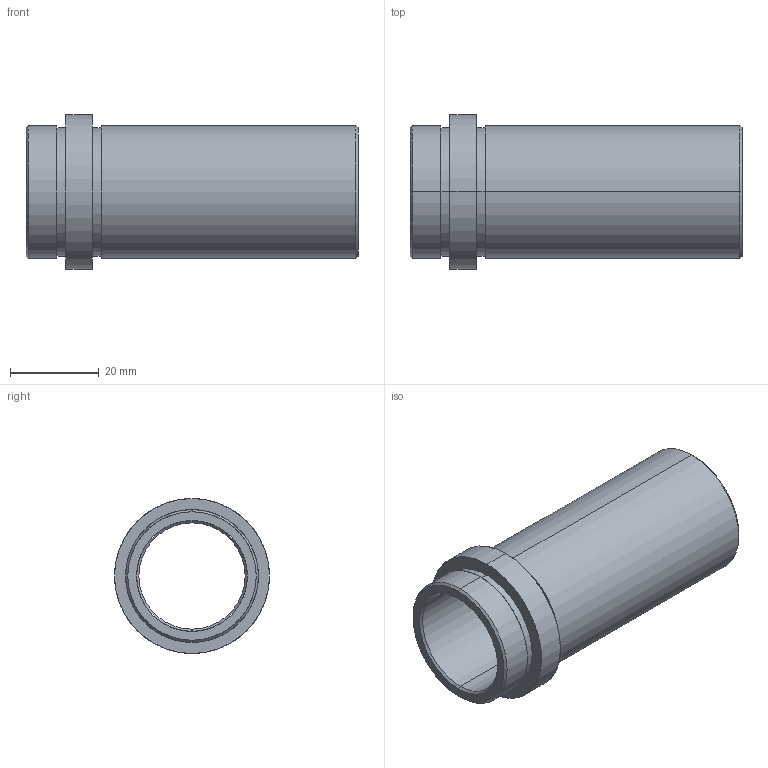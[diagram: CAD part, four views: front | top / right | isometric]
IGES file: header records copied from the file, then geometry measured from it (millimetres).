
Start section: SolidWorks IGES FILE using analytic representation for surfaces
Global section: file name: D:\zzzzz\Delta\D21\24\D21 - 24x66.IGS; native system: SolidWorks 2004 by SolidWorks Corporation; preprocessor: Version 5.3; author: Hkn; date: 080326.192749; units: millimetre
Bounding box: 75 x 35 x 35 mm (x, y, z)
Surface area: 13910.5 mm2 (no closed solid volume)
Topology: 0 solids, 0 shells, 26 faces, 784 edges, 784 vertices
Faces by surface type: revolution 20, bspline 6
